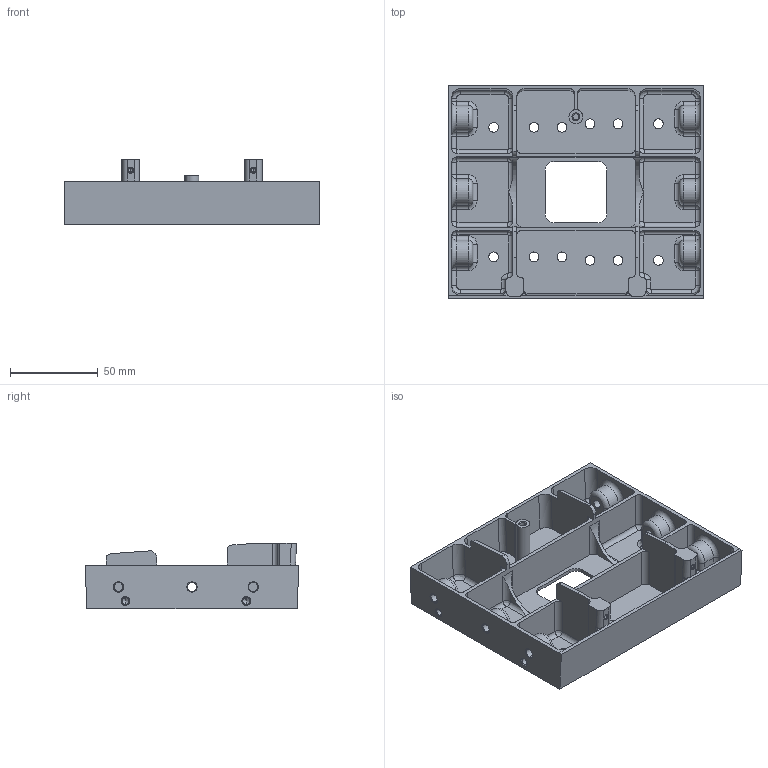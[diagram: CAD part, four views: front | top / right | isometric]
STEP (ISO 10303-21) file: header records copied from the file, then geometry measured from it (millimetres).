
FILE_DESCRIPTION((''),'2;1');
FILE_NAME('ST-X_1_1_1','2025-07-12T14:29:28',('Administrator'),(''),'CREO PARAMETRIC BY PTC INC, 2022073','CREO PARAMETRIC BY PTC INC, 2022073','');
FILE_SCHEMA(('CONFIG_CONTROL_DESIGN'));
Length unit declared in the file: millimetre
Products named in the file (1): ST-X_1_1_1
Bounding box: 146 x 122.24 x 37.5 mm (x, y, z)
Volume: 105686.8 mm3; surface area: 83115.5 mm2
Topology: 1 solids, 1 shells, 397 faces, 1036 edges, 624 vertices
Faces by surface type: cylinder 194, plane 101, cone 38, torus 26, bspline 26, sphere 12
Entity records: 12695 total; most frequent: CARTESIAN_POINT 2844, DIRECTION 2154, ORIENTED_EDGE 2024, EDGE_CURVE 1012, AXIS2_PLACEMENT_3D 827, VERTEX_POINT 624, VECTOR 500, LINE 500
